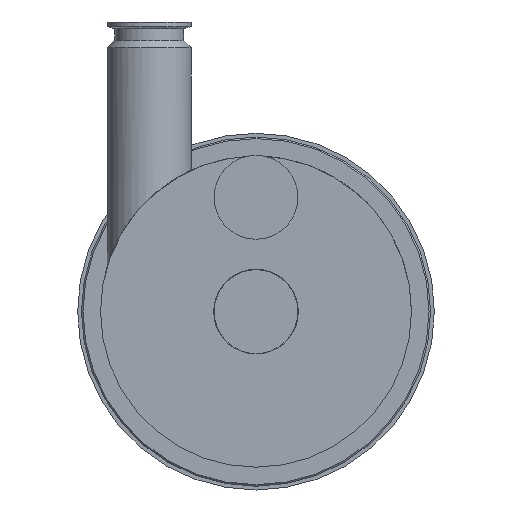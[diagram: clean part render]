
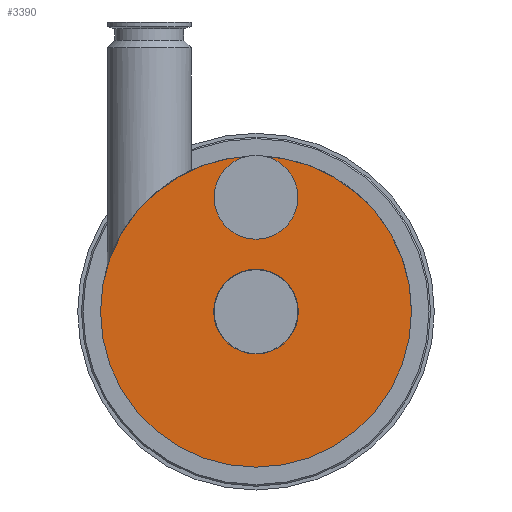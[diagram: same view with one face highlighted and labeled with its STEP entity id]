
A CAD part, front view. The second image highlights one B-rep face of the part: STEP entity #3390.
In plain terms, the highlighted planar face has unit normal (0, -1, 0).
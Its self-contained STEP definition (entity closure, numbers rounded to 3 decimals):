
#901=CARTESIAN_POINT('',(0.,192.,0.));
#902=DIRECTION('',(0.,1.,0.));
#903=DIRECTION('',(0.,0.,-1.));
#904=AXIS2_PLACEMENT_3D('',#901,#902,#903);
#906=CARTESIAN_POINT('',(0.,192.,0.));
#907=DIRECTION('',(0.,1.,0.));
#908=DIRECTION('',(-1.,0.,0.));
#909=AXIS2_PLACEMENT_3D('',#906,#907,#908);
#911=CARTESIAN_POINT('',(0.,192.,0.));
#912=DIRECTION('',(0.,1.,0.));
#913=DIRECTION('',(0.,0.,1.));
#914=AXIS2_PLACEMENT_3D('',#911,#912,#913);
#916=CARTESIAN_POINT('',(0.,192.,0.));
#917=DIRECTION('',(0.,1.,0.));
#918=DIRECTION('',(1.,0.,0.));
#919=AXIS2_PLACEMENT_3D('',#916,#917,#918);
#921=CARTESIAN_POINT('',(0.,192.,0.));
#922=DIRECTION('',(0.,-1.,0.));
#923=DIRECTION('',(-1.,0.,0.));
#924=AXIS2_PLACEMENT_3D('',#921,#922,#923);
#926=CARTESIAN_POINT('',(0.,192.,0.));
#927=DIRECTION('',(0.,-1.,0.));
#928=DIRECTION('',(1.,0.,0.));
#929=AXIS2_PLACEMENT_3D('',#926,#927,#928);
#931=CARTESIAN_POINT('',(0.,192.,75.));
#932=DIRECTION('',(0.,-1.,0.));
#933=DIRECTION('',(1.,0.,0.));
#934=AXIS2_PLACEMENT_3D('',#931,#932,#933);
#936=CARTESIAN_POINT('',(0.,192.,75.));
#937=DIRECTION('',(0.,-1.,0.));
#938=DIRECTION('',(-1.,0.,0.));
#939=AXIS2_PLACEMENT_3D('',#936,#937,#938);
#2212=CARTESIAN_POINT('',(-19.,192.,75.));
#2213=CARTESIAN_POINT('',(19.,192.,75.));
#2214=VERTEX_POINT('',#2212);
#2215=VERTEX_POINT('',#2213);
#2216=CARTESIAN_POINT('',(-102.,192.,0.));
#2217=CARTESIAN_POINT('',(0.,192.,102.));
#2218=VERTEX_POINT('',#2216);
#2219=VERTEX_POINT('',#2217);
#2220=CARTESIAN_POINT('',(0.,192.,-102.));
#2221=VERTEX_POINT('',#2220);
#2222=CARTESIAN_POINT('',(102.,192.,0.));
#2223=VERTEX_POINT('',#2222);
#2224=CARTESIAN_POINT('',(-27.5,192.,0.));
#2225=CARTESIAN_POINT('',(27.5,192.,0.));
#2226=VERTEX_POINT('',#2224);
#2227=VERTEX_POINT('',#2225);
#3367=CARTESIAN_POINT('',(0.,192.,0.));
#3368=DIRECTION('',(0.,-1.,0.));
#3369=DIRECTION('',(0.,0.,1.));
#3370=AXIS2_PLACEMENT_3D('',#3367,#3368,#3369);
#3371=PLANE('',#3370);
#3372=ORIENTED_EDGE('',*,*,#3336,.T.);
#3373=ORIENTED_EDGE('',*,*,#3334,.T.);
#3374=ORIENTED_EDGE('',*,*,#3357,.T.);
#3375=ORIENTED_EDGE('',*,*,#3355,.T.);
#3376=EDGE_LOOP('',(#3372,#3373,#3374,#3375));
#3377=FACE_OUTER_BOUND('',#3376,.F.);
#3379=ORIENTED_EDGE('',*,*,#3378,.T.);
#3381=ORIENTED_EDGE('',*,*,#3380,.T.);
#3382=EDGE_LOOP('',(#3379,#3381));
#3383=FACE_BOUND('',#3382,.F.);
#3385=ORIENTED_EDGE('',*,*,#3384,.T.);
#3387=ORIENTED_EDGE('',*,*,#3386,.T.);
#3388=EDGE_LOOP('',(#3385,#3387));
#3389=FACE_BOUND('',#3388,.F.);
#905=CIRCLE('',#904,102.);
#910=CIRCLE('',#909,102.);
#915=CIRCLE('',#914,102.);
#920=CIRCLE('',#919,102.);
#925=CIRCLE('',#924,27.5);
#930=CIRCLE('',#929,27.5);
#935=CIRCLE('',#934,19.);
#940=CIRCLE('',#939,19.);
#3334=EDGE_CURVE('',#2218,#2219,#910,.T.);
#3336=EDGE_CURVE('',#2221,#2218,#905,.T.);
#3355=EDGE_CURVE('',#2223,#2221,#920,.T.);
#3357=EDGE_CURVE('',#2219,#2223,#915,.T.);
#3378=EDGE_CURVE('',#2226,#2227,#925,.T.);
#3380=EDGE_CURVE('',#2227,#2226,#930,.T.);
#3384=EDGE_CURVE('',#2215,#2214,#935,.T.);
#3386=EDGE_CURVE('',#2214,#2215,#940,.T.);
#3390=ADVANCED_FACE('',(#3377,#3383,#3389),#3371,.T.);
